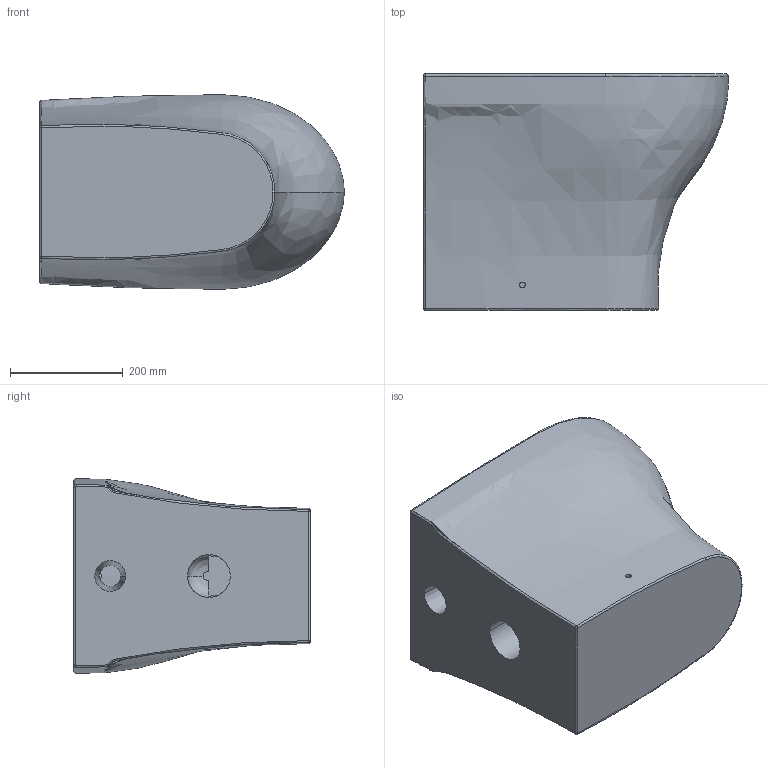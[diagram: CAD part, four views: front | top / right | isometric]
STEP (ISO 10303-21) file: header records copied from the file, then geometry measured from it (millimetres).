
FILE_DESCRIPTION (( 'STEP AP203' ), '1' );
FILE_NAME ('PAVYTP000000.STEP', '2019-05-27T08:54:11', ( '' ), ( '' ), 'SwSTEP 2.0', 'SolidWorks 2019', '' );
FILE_SCHEMA (( 'CONFIG_CONTROL_DESIGN' ));
Length unit declared in the file: millimetre
Products named in the file (3): EROGATORE VASOBIDET; PRA 110_BI; PAVYTP000000
Assembly tree (2 placements, depth 2):
  PAVYTP000000
    PRA 110_BI
    EROGATORE VASOBIDET
Bounding box: 540.26 x 420 x 345.29 mm (x, y, z)
Volume: 37414190 mm3; surface area: 1157561.6 mm2
Topology: 2 solids, 2 shells, 125 faces, 309 edges, 191 vertices
Faces by surface type: bspline 45, cylinder 36, plane 23, torus 11, cone 8, sphere 2
Entity records: 14218 total; most frequent: CARTESIAN_POINT 11342, ORIENTED_EDGE 610, DIRECTION 452, EDGE_CURVE 305, AXIS2_PLACEMENT_3D 192, VERTEX_POINT 191, EDGE_LOOP 138, FACE_OUTER_BOUND 125
